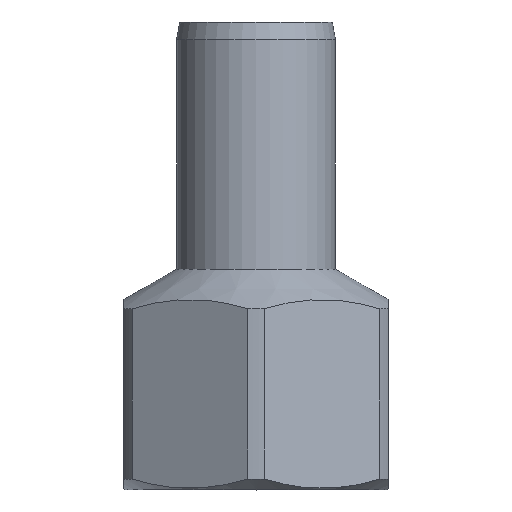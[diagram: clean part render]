
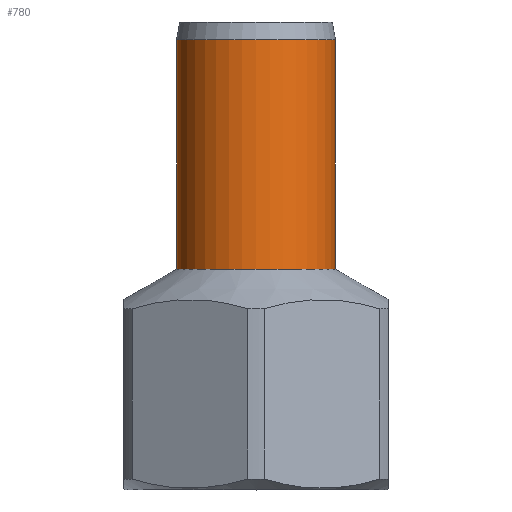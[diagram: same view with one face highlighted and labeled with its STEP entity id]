
A CAD part, top view. The second image highlights one B-rep face of the part: STEP entity #780.
In plain terms, the highlighted cylindrical face has radius 9 mm (diameter 18 mm), a partial arc.
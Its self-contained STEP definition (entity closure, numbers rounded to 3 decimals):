
#370=CARTESIAN_POINT('',(279.833,62.885,0.));
#380=DIRECTION('',(0.,-1.,0.));
#390=DIRECTION('',(-1.,0.,0.));
#400=AXIS2_PLACEMENT_3D('',#370,#380,#390);
#410=CYLINDRICAL_SURFACE('',#400,9.);
#420=CARTESIAN_POINT('',(270.833,62.885,0.));
#430=DIRECTION('',(0.,-1.,0.));
#440=VECTOR('',#430,1.);
#450=LINE('',#420,#440);
#460=CARTESIAN_POINT('',(270.833,87.385,0.));
#470=VERTEX_POINT('',#460);
#480=CARTESIAN_POINT('',(270.833,61.385,0.));
#490=VERTEX_POINT('',#480);
#500=EDGE_CURVE('',#470,#490,#450,.T.);
#510=ORIENTED_EDGE('',*,*,#500,.T.);
#520=CARTESIAN_POINT('',(279.833,87.385,0.));
#530=DIRECTION('',(0.,1.,0.));
#540=DIRECTION('',(1.,0.,0.));
#550=AXIS2_PLACEMENT_3D('',#520,#530,#540);
#560=CIRCLE('',#550,9.);
#570=CARTESIAN_POINT('',(288.833,87.385,
0.));
#580=VERTEX_POINT('',#570);
#590=EDGE_CURVE('',#470,#580,#560,.T.);
#600=ORIENTED_EDGE('',*,*,#590,.F.);
#610=CARTESIAN_POINT('',(288.833,62.885,
0.));
#620=DIRECTION('',(0.,-1.,0.));
#630=VECTOR('',#620,1.);
#640=LINE('',#610,#630);
#650=CARTESIAN_POINT('',(288.833,61.385,
0.));
#660=VERTEX_POINT('',#650);
#670=EDGE_CURVE('',#580,#660,#640,.T.);
#680=ORIENTED_EDGE('',*,*,#670,.F.);
#690=CARTESIAN_POINT('',(279.833,61.385,0.));
#700=DIRECTION('',(0.,1.,0.));
#710=DIRECTION('',(1.,0.,0.));
#720=AXIS2_PLACEMENT_3D('',#690,#700,#710);
#730=CIRCLE('',#720,9.);
#740=EDGE_CURVE('',#490,#660,#730,.T.);
#750=ORIENTED_EDGE('',*,*,#740,.T.);
#760=EDGE_LOOP('',(#750,#680,#600,#510));
#770=FACE_OUTER_BOUND('',#760,.T.);
#780=ADVANCED_FACE('',(#770),#410,.T.);
